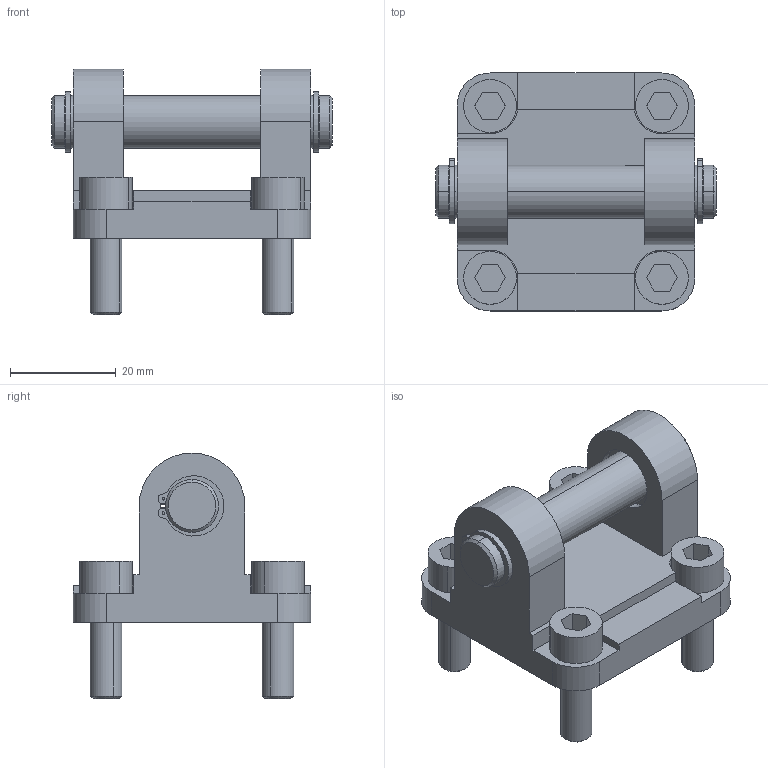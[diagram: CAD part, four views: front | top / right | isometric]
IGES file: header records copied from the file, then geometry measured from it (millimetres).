
Start section:  PTC IGES file: R412027402\r412027402.iges
Global section: file name: R412027402\r412027402.iges; native system: Creo Parametric by PTC Inc.; preprocessor: 2020044; author: THD3HC; organization: Unknown; date: 20231107.151004; units: millimetre
Bounding box: 53 x 45 x 46.5 mm (x, y, z)
Surface area: 12578.3 mm2 (no closed solid volume)
Topology: 0 solids, 0 shells, 179 faces, 928 edges, 928 vertices
Faces by surface type: bspline 97, revolution 82
